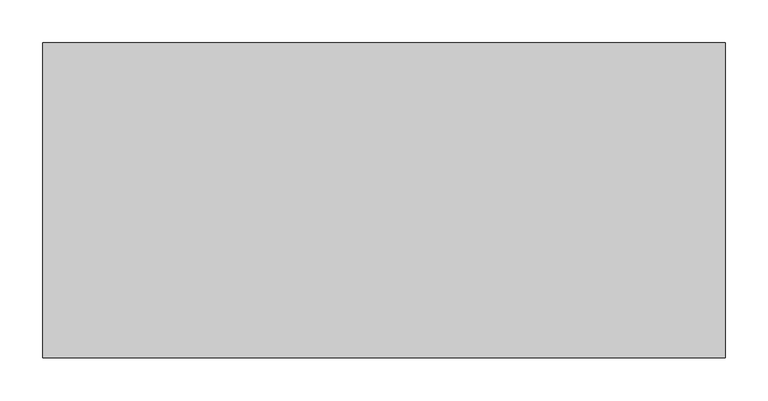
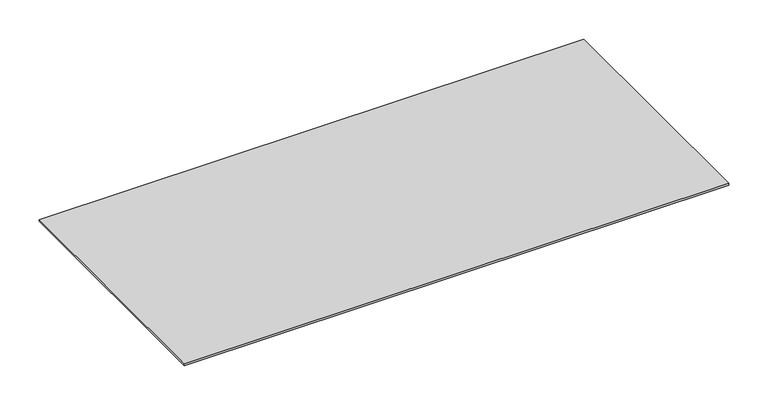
"""IFC4 building model written with IfcOpenShell, lengths in millimetres: proxy geometry, Electrical_Installation_Hager_Blank-Cover-BKA : Electrical_Installation_Hager_Blank-Cover-BKA."""

from ifc_helpers import new_model, si_unit, frame, origin, place, context, project, spatial, polyline, outline, extrude, source, transform, mapped, element, save


def electrical_fixtures_aef36d11(model_context):
    return source(origin(), model_context, "Body", "SweptSolid", [
        extrude(outline(polyline([(800.0, 184.75), (800.0, -184.75), (0.0, -184.75), (0.0, 184.75), (800.0, 184.75)])), frame((0.0, 0.0, 10.0), z_axis=(0.0, 0.0, 1.0), x_axis=(1.0, 0.0, 0.0)), (0.0, 0.0, 1.0), 3.0),
    ])


if __name__ == "__main__":
    model = new_model("IFC4")
    model_context = context("Model", 3, world=origin())
    ifc_project = project(units=[si_unit("LENGTHUNIT", "METRE", prefix="MILLI")], contexts=[model_context])
    site = spatial("IfcSite", under=ifc_project)
    building = spatial("IfcBuilding", under=site)
    placement = place(None, origin())
    electrical_fixtures_shape = electrical_fixtures_aef36d11(model_context)
    element("IfcBuildingElementProxy", 1, Name="Electrical_Installation_Hager_Blank-Cover-BKA : Electrical_Installation_Hager_Blank-Cover-BKA", ObjectType="Electrical_Installation_Hager_Blank-Cover-BKA : Electrical_Installation_Hager_Blank-Cover-BKA", at=placement, inside=building, context=model_context, shape_type="MappedRepresentation", body=[
        mapped(electrical_fixtures_shape, transform((0.0, 0.0, 0.0), x_axis=(1.0, 0.0, 0.0), y_axis=(0.0, 1.0, 0.0), z_axis=(0.0, 0.0, 1.0))),
    ])
    save(model, "model.ifc")
